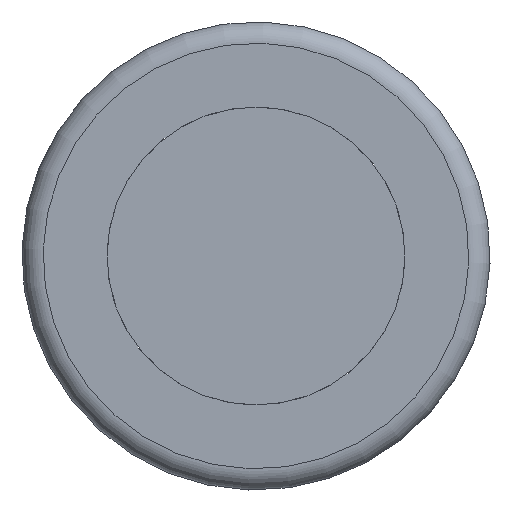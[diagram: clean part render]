
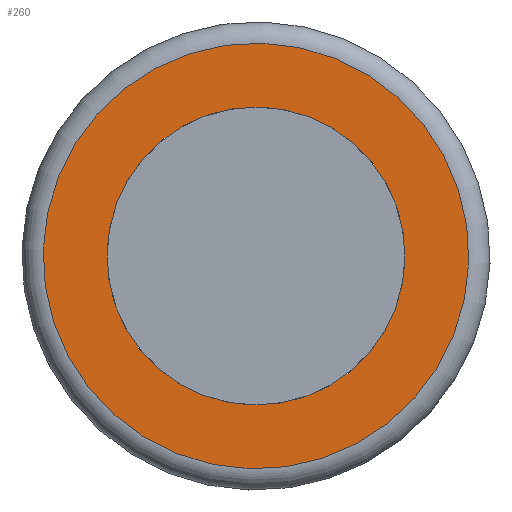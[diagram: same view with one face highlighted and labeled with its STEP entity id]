
A CAD part, left-side view. The second image highlights one B-rep face of the part: STEP entity #260.
In plain terms, the highlighted planar face has unit normal (-1, 0, 0).
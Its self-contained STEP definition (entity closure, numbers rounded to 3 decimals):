
#209=CARTESIAN_POINT('',(130.0,9.995,0.325));
#210=VERTEX_POINT('',#209);
#211=CARTESIAN_POINT('',(130.0,0.0,0.0));
#212=DIRECTION('',(1.,0.0,0.0));
#213=DIRECTION('',(0.0,-0.999,-0.033));
#214=AXIS2_PLACEMENT_3D('',#211,#212,#213);
#215=CIRCLE('',#214,10.0);
#216=EDGE_CURVE('',#210,#210,#215,.T.);
#241=CARTESIAN_POINT('',(130.0,0.0,0.0));
#242=DIRECTION('',(-1.0,0.0,0.0));
#243=DIRECTION('',(0.0,-0.033,0.999));
#244=AXIS2_PLACEMENT_3D('',#241,#242,#243);
#245=PLANE('',#244);
#246=ORIENTED_EDGE('',*,*,#216,.F.);
#247=EDGE_LOOP('',(#246));
#248=FACE_OUTER_BOUND('',#247,.T.);
#249=CARTESIAN_POINT('',(130.0,6.996,0.228));
#250=VERTEX_POINT('',#249);
#251=CARTESIAN_POINT('',(130.0,0.0,0.0));
#252=DIRECTION('',(1.0,0.0,0.0));
#253=DIRECTION('',(0.0,-0.999,-0.033));
#254=AXIS2_PLACEMENT_3D('',#251,#252,#253);
#255=CIRCLE('',#254,7.);
#256=EDGE_CURVE('',#250,#250,#255,.T.);
#257=ORIENTED_EDGE('',*,*,#256,.T.);
#258=EDGE_LOOP('',(#257));
#259=FACE_BOUND('',#258,.T.);
#260=ADVANCED_FACE('',(#248,#259),#245,.T.);
